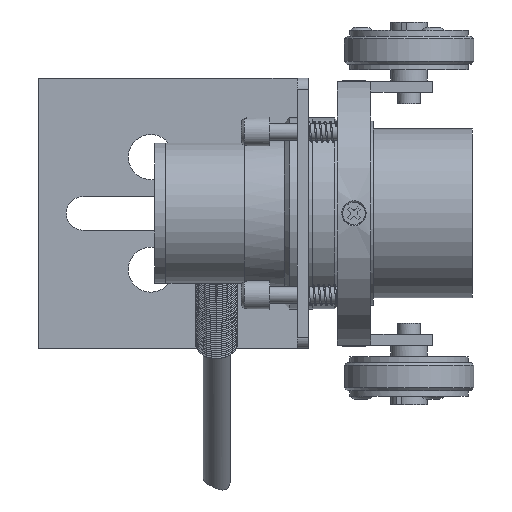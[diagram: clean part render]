
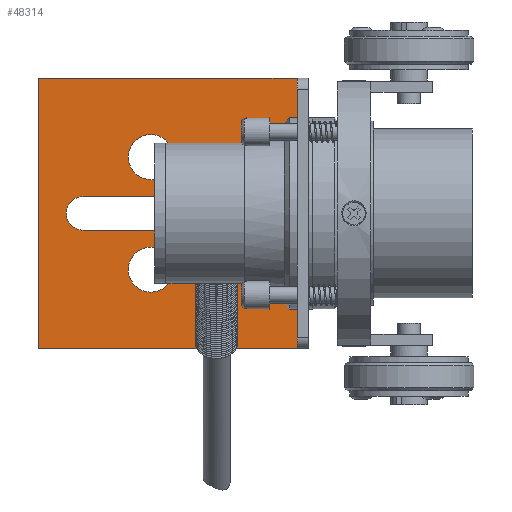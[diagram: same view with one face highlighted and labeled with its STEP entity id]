
A CAD part, left-side view. The second image highlights one B-rep face of the part: STEP entity #48314.
In plain terms, the highlighted planar face has unit normal (-1, 0, 0).
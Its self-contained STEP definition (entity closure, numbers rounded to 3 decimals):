
#1216 = DIRECTION ( 'NONE',  ( 1., 0., 0. ) ) ;
#1477 = DIRECTION ( 'NONE',  ( 0., 1., 0. ) ) ;
#1687 = VECTOR ( 'NONE', #12050, 1000. ) ;
#2418 = EDGE_LOOP ( 'NONE', ( #16383 ) ) ;
#2878 = VERTEX_POINT ( 'NONE', #46803 ) ;
#3035 = DIRECTION ( 'NONE',  ( 0., 1., 0. ) ) ;
#3929 = DIRECTION ( 'NONE',  ( 0., 1., 0. ) ) ;
#4417 = EDGE_LOOP ( 'NONE', ( #18422, #7406, #28498, #51563 ) ) ;
#4489 = VERTEX_POINT ( 'NONE', #18651 ) ;
#4568 = AXIS2_PLACEMENT_3D ( 'NONE', #5315, #25918, #8347 ) ;
#5315 = CARTESIAN_POINT ( 'NONE',  ( 36.849, 39.7, -10. ) ) ;
#5329 = FACE_BOUND ( 'NONE', #39656, .T. ) ;
#5659 = DIRECTION ( 'NONE',  ( 0., 0., 1. ) ) ;
#7406 = ORIENTED_EDGE ( 'NONE', *, *, #45452, .T. ) ;
#7424 = CARTESIAN_POINT ( 'NONE',  ( 36.849, 59.7, -3. ) ) ;
#7721 = VERTEX_POINT ( 'NONE', #36535 ) ;
#7970 = LINE ( 'NONE', #7424, #13556 ) ;
#8347 = DIRECTION ( 'NONE',  ( 0., 1., 0. ) ) ;
#9194 = AXIS2_PLACEMENT_3D ( 'NONE', #49645, #12011, #40842 ) ;
#10066 = DIRECTION ( 'NONE',  ( 1., 0., 0. ) ) ;
#10895 = VERTEX_POINT ( 'NONE', #21439 ) ;
#12011 = DIRECTION ( 'NONE',  ( 1., 0., 0. ) ) ;
#12017 = VERTEX_POINT ( 'NONE', #18147 ) ;
#12050 = DIRECTION ( 'NONE',  ( 0., -1., 0. ) ) ;
#12331 = EDGE_CURVE ( 'NONE', #12017, #4489, #16182, .T. ) ;
#13556 = VECTOR ( 'NONE', #3035, 1000. ) ;
#15213 = CARTESIAN_POINT ( 'NONE',  ( 36.849, 39.7, 10. ) ) ;
#15917 = CARTESIAN_POINT ( 'NONE',  ( 36.849, 59.7, 24. ) ) ;
#16182 = LINE ( 'NONE', #24133, #1687 ) ;
#16383 = ORIENTED_EDGE ( 'NONE', *, *, #18458, .T. ) ;
#16808 = AXIS2_PLACEMENT_3D ( 'NONE', #42401, #1216, #1477 ) ;
#18147 = CARTESIAN_POINT ( 'NONE',  ( 36.849, 59.7, -24. ) ) ;
#18259 = ORIENTED_EDGE ( 'NONE', *, *, #12331, .T. ) ;
#18422 = ORIENTED_EDGE ( 'NONE', *, *, #47933, .T. ) ;
#18458 = EDGE_CURVE ( 'NONE', #44289, #44289, #19477, .T. ) ;
#18511 = FACE_BOUND ( 'NONE', #4417, .T. ) ;
#18550 = VECTOR ( 'NONE', #54223, 1000. ) ;
#18651 = CARTESIAN_POINT ( 'NONE',  ( 36.849, 13.7, -24. ) ) ;
#19477 = CIRCLE ( 'NONE', #4568, 4. ) ;
#19772 = VERTEX_POINT ( 'NONE', #15917 ) ;
#20797 = CARTESIAN_POINT ( 'NONE',  ( 36.849, 13.7, 24. ) ) ;
#21004 = VERTEX_POINT ( 'NONE', #20797 ) ;
#21035 = CIRCLE ( 'NONE', #21931, 4. ) ;
#21439 = CARTESIAN_POINT ( 'NONE',  ( 36.849, 51.7, 3. ) ) ;
#21456 = ORIENTED_EDGE ( 'NONE', *, *, #34918, .T. ) ;
#21931 = AXIS2_PLACEMENT_3D ( 'NONE', #15213, #37164, #3929 ) ;
#22353 = CARTESIAN_POINT ( 'NONE',  ( 36.849, 43.7, -10. ) ) ;
#23868 = ORIENTED_EDGE ( 'NONE', *, *, #30814, .F. ) ;
#23886 = LINE ( 'NONE', #49708, #52269 ) ;
#24133 = CARTESIAN_POINT ( 'NONE',  ( 36.849, 59.7, -24. ) ) ;
#25638 = CIRCLE ( 'NONE', #44954, 3. ) ;
#25723 = VERTEX_POINT ( 'NONE', #52527 ) ;
#25918 = DIRECTION ( 'NONE',  ( 1., 0., 0. ) ) ;
#26530 = CARTESIAN_POINT ( 'NONE',  ( 36.849, 59.7, -24. ) ) ;
#27681 = ORIENTED_EDGE ( 'NONE', *, *, #42297, .F. ) ;
#28498 = ORIENTED_EDGE ( 'NONE', *, *, #38882, .T. ) ;
#30593 = FACE_OUTER_BOUND ( 'NONE', #38269, .T. ) ;
#30814 = EDGE_CURVE ( 'NONE', #21004, #4489, #37100, .T. ) ;
#31440 = VECTOR ( 'NONE', #53853, 1000. ) ;
#31703 = ORIENTED_EDGE ( 'NONE', *, *, #43726, .F. ) ;
#32667 = DIRECTION ( 'NONE',  ( 0., -1., 0. ) ) ;
#33772 = CARTESIAN_POINT ( 'NONE',  ( 36.849, 13.7, -24. ) ) ;
#34436 = PLANE ( 'NONE',  #16808 ) ;
#34918 = EDGE_CURVE ( 'NONE', #39843, #39843, #21035, .T. ) ;
#36535 = CARTESIAN_POINT ( 'NONE',  ( 36.849, 51.7, -3. ) ) ;
#37100 = LINE ( 'NONE', #33772, #31440 ) ;
#37164 = DIRECTION ( 'NONE',  ( 1., 0., 0. ) ) ;
#38269 = EDGE_LOOP ( 'NONE', ( #23868, #31703, #27681, #18259 ) ) ;
#38882 = EDGE_CURVE ( 'NONE', #25723, #7721, #7970, .T. ) ;
#38896 = LINE ( 'NONE', #26530, #50470 ) ;
#39568 = CARTESIAN_POINT ( 'NONE',  ( 36.849, 43.7, 10. ) ) ;
#39656 = EDGE_LOOP ( 'NONE', ( #21456 ) ) ;
#39843 = VERTEX_POINT ( 'NONE', #39568 ) ;
#40842 = DIRECTION ( 'NONE',  ( 0., 1., 0. ) ) ;
#41207 = EDGE_CURVE ( 'NONE', #7721, #10895, #46036, .T. ) ;
#41848 = CARTESIAN_POINT ( 'NONE',  ( 36.849, 59.7, 3. ) ) ;
#42297 = EDGE_CURVE ( 'NONE', #12017, #19772, #38896, .T. ) ;
#42401 = CARTESIAN_POINT ( 'NONE',  ( 36.849, 59.7, -24. ) ) ;
#43726 = EDGE_CURVE ( 'NONE', #19772, #21004, #23886, .T. ) ;
#44289 = VERTEX_POINT ( 'NONE', #22353 ) ;
#44954 = AXIS2_PLACEMENT_3D ( 'NONE', #47689, #10066, #48754 ) ;
#44967 = LINE ( 'NONE', #41848, #18550 ) ;
#45452 = EDGE_CURVE ( 'NONE', #2878, #25723, #25638, .T. ) ;
#46036 = CIRCLE ( 'NONE', #9194, 3. ) ;
#46803 = CARTESIAN_POINT ( 'NONE',  ( 36.849, 22.7, 3. ) ) ;
#47689 = CARTESIAN_POINT ( 'NONE',  ( 36.849, 22.7, 0. ) ) ;
#47933 = EDGE_CURVE ( 'NONE', #10895, #2878, #44967, .T. ) ;
#48314 = ADVANCED_FACE ( 'NONE', ( #18511, #52012, #5329, #30593 ), #34436, .F. ) ;
#48754 = DIRECTION ( 'NONE',  ( 0., 1., 0. ) ) ;
#49645 = CARTESIAN_POINT ( 'NONE',  ( 36.849, 51.7, 0. ) ) ;
#49708 = CARTESIAN_POINT ( 'NONE',  ( 36.849, 59.7, 24. ) ) ;
#50470 = VECTOR ( 'NONE', #5659, 1000. ) ;
#51563 = ORIENTED_EDGE ( 'NONE', *, *, #41207, .T. ) ;
#52012 = FACE_BOUND ( 'NONE', #2418, .T. ) ;
#52269 = VECTOR ( 'NONE', #32667, 1000. ) ;
#52527 = CARTESIAN_POINT ( 'NONE',  ( 36.849, 22.7, -3. ) ) ;
#53853 = DIRECTION ( 'NONE',  ( 0., 0., -1. ) ) ;
#54223 = DIRECTION ( 'NONE',  ( 0., -1., 0. ) ) ;
